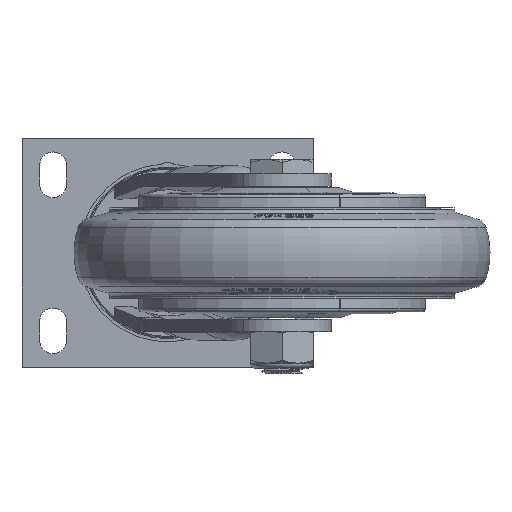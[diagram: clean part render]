
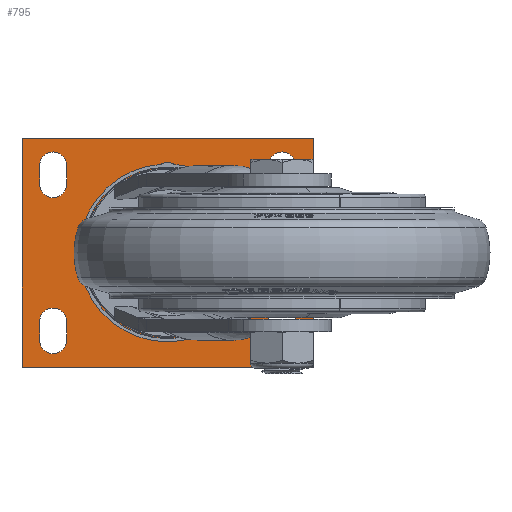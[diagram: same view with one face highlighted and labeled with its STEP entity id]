
A CAD part, front view. The second image highlights one B-rep face of the part: STEP entity #795.
In plain terms, the highlighted planar face has unit normal (0, -1, 0).
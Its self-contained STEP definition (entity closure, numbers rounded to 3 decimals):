
#161=CARTESIAN_POINT('',(0.,-8.,0.));
#162=DIRECTION('',(0.,-1.,0.));
#163=DIRECTION('',(1.,0.,0.));
#164=AXIS2_PLACEMENT_3D('',#161,#162,#163);
#166=CARTESIAN_POINT('',(0.,-8.,0.));
#167=DIRECTION('',(0.,-1.,0.));
#168=DIRECTION('',(-1.,0.,0.));
#169=AXIS2_PLACEMENT_3D('',#166,#167,#168);
#171=DIRECTION('',(0.,0.,-1.));
#172=VECTOR('',#171,110.);
#173=CARTESIAN_POINT('',(-70.,-8.,55.));
#174=LINE('',#173,#172);
#175=DIRECTION('',(-1.,0.,0.));
#176=VECTOR('',#175,140.);
#177=CARTESIAN_POINT('',(70.,-8.,55.));
#178=LINE('',#177,#176);
#179=DIRECTION('',(0.,0.,1.));
#180=VECTOR('',#179,110.);
#181=CARTESIAN_POINT('',(70.,-8.,-55.));
#182=LINE('',#181,#180);
#183=DIRECTION('',(1.,0.,0.));
#184=VECTOR('',#183,140.);
#185=CARTESIAN_POINT('',(-70.,-8.,-55.));
#186=LINE('',#185,#184);
#187=CARTESIAN_POINT('',(-55.,-8.,42.));
#188=DIRECTION('',(0.,1.,0.));
#189=DIRECTION('',(-1.,0.,0.));
#190=AXIS2_PLACEMENT_3D('',#187,#188,#189);
#192=DIRECTION('',(0.,0.,1.));
#193=VECTOR('',#192,9.);
#194=CARTESIAN_POINT('',(-61.5,-8.,33.));
#195=LINE('',#194,#193);
#196=CARTESIAN_POINT('',(-55.,-8.,33.));
#197=DIRECTION('',(0.,1.,0.));
#198=DIRECTION('',(1.,0.,0.));
#199=AXIS2_PLACEMENT_3D('',#196,#197,#198);
#201=DIRECTION('',(0.,0.,-1.));
#202=VECTOR('',#201,9.);
#203=CARTESIAN_POINT('',(-48.5,-8.,42.));
#204=LINE('',#203,#202);
#205=CARTESIAN_POINT('',(-55.,-8.,-42.));
#206=DIRECTION('',(0.,-1.,0.));
#207=DIRECTION('',(-1.,0.,0.));
#208=AXIS2_PLACEMENT_3D('',#205,#206,#207);
#210=DIRECTION('',(0.,0.,1.));
#211=VECTOR('',#210,9.);
#212=CARTESIAN_POINT('',(-48.5,-8.,-42.));
#213=LINE('',#212,#211);
#214=CARTESIAN_POINT('',(-55.,-8.,-33.));
#215=DIRECTION('',(0.,-1.,0.));
#216=DIRECTION('',(1.,0.,0.));
#217=AXIS2_PLACEMENT_3D('',#214,#215,#216);
#219=DIRECTION('',(0.,0.,-1.));
#220=VECTOR('',#219,9.);
#221=CARTESIAN_POINT('',(-61.5,-8.,-33.));
#222=LINE('',#221,#220);
#223=CARTESIAN_POINT('',(55.,-8.,42.));
#224=DIRECTION('',(0.,-1.,0.));
#225=DIRECTION('',(1.,0.,0.));
#226=AXIS2_PLACEMENT_3D('',#223,#224,#225);
#228=DIRECTION('',(0.,0.,-1.));
#229=VECTOR('',#228,9.);
#230=CARTESIAN_POINT('',(48.5,-8.,42.));
#231=LINE('',#230,#229);
#232=CARTESIAN_POINT('',(55.,-8.,33.));
#233=DIRECTION('',(0.,-1.,0.));
#234=DIRECTION('',(-1.,0.,0.));
#235=AXIS2_PLACEMENT_3D('',#232,#233,#234);
#237=DIRECTION('',(0.,0.,1.));
#238=VECTOR('',#237,9.);
#239=CARTESIAN_POINT('',(61.5,-8.,33.));
#240=LINE('',#239,#238);
#241=CARTESIAN_POINT('',(55.,-8.,-42.));
#242=DIRECTION('',(0.,1.,0.));
#243=DIRECTION('',(1.,0.,0.));
#244=AXIS2_PLACEMENT_3D('',#241,#242,#243);
#246=DIRECTION('',(0.,0.,-1.));
#247=VECTOR('',#246,9.);
#248=CARTESIAN_POINT('',(61.5,-8.,-33.));
#249=LINE('',#248,#247);
#250=CARTESIAN_POINT('',(55.,-8.,-33.));
#251=DIRECTION('',(0.,1.,0.));
#252=DIRECTION('',(-1.,0.,0.));
#253=AXIS2_PLACEMENT_3D('',#250,#251,#252);
#255=DIRECTION('',(0.,0.,1.));
#256=VECTOR('',#255,9.);
#257=CARTESIAN_POINT('',(48.5,-8.,-42.));
#258=LINE('',#257,#256);
#434=CARTESIAN_POINT('',(-36.742,-8.,0.));
#435=CARTESIAN_POINT('',(36.742,-8.,0.));
#436=VERTEX_POINT('',#434);
#437=VERTEX_POINT('',#435);
#446=CARTESIAN_POINT('',(-70.,-8.,55.));
#447=CARTESIAN_POINT('',(-70.,-8.,-55.));
#448=VERTEX_POINT('',#446);
#449=VERTEX_POINT('',#447);
#450=CARTESIAN_POINT('',(70.,-8.,-55.));
#451=VERTEX_POINT('',#450);
#452=CARTESIAN_POINT('',(70.,-8.,55.));
#453=VERTEX_POINT('',#452);
#462=CARTESIAN_POINT('',(-61.5,-8.,42.));
#463=CARTESIAN_POINT('',(-48.5,-8.,42.));
#464=VERTEX_POINT('',#462);
#465=VERTEX_POINT('',#463);
#466=CARTESIAN_POINT('',(-48.5,-8.,33.));
#467=VERTEX_POINT('',#466);
#468=CARTESIAN_POINT('',(-61.5,-8.,33.));
#469=VERTEX_POINT('',#468);
#471=CARTESIAN_POINT('',(-61.5,-8.,-42.));
#473=VERTEX_POINT('',#471);
#475=CARTESIAN_POINT('',(-48.5,-8.,-42.));
#477=VERTEX_POINT('',#475);
#479=CARTESIAN_POINT('',(-48.5,-8.,-33.));
#481=VERTEX_POINT('',#479);
#483=CARTESIAN_POINT('',(-61.5,-8.,-33.));
#485=VERTEX_POINT('',#483);
#487=CARTESIAN_POINT('',(61.5,-8.,42.));
#489=VERTEX_POINT('',#487);
#491=CARTESIAN_POINT('',(48.5,-8.,42.));
#493=VERTEX_POINT('',#491);
#495=CARTESIAN_POINT('',(48.5,-8.,33.));
#497=VERTEX_POINT('',#495);
#499=CARTESIAN_POINT('',(61.5,-8.,33.));
#501=VERTEX_POINT('',#499);
#503=CARTESIAN_POINT('',(61.5,-8.,-42.));
#505=VERTEX_POINT('',#503);
#507=CARTESIAN_POINT('',(48.5,-8.,-42.));
#509=VERTEX_POINT('',#507);
#511=CARTESIAN_POINT('',(48.5,-8.,-33.));
#513=VERTEX_POINT('',#511);
#515=CARTESIAN_POINT('',(61.5,-8.,-33.));
#517=VERTEX_POINT('',#515);
#734=CARTESIAN_POINT('',(0.,-8.,0.));
#735=DIRECTION('',(0.,-1.,0.));
#736=DIRECTION('',(-1.,0.,0.));
#737=AXIS2_PLACEMENT_3D('',#734,#735,#736);
#738=PLANE('',#737);
#740=ORIENTED_EDGE('',*,*,#739,.F.);
#742=ORIENTED_EDGE('',*,*,#741,.F.);
#744=ORIENTED_EDGE('',*,*,#743,.F.);
#746=ORIENTED_EDGE('',*,*,#745,.F.);
#747=EDGE_LOOP('',(#740,#742,#744,#746));
#748=FACE_OUTER_BOUND('',#747,.F.);
#750=ORIENTED_EDGE('',*,*,#749,.T.);
#752=ORIENTED_EDGE('',*,*,#751,.T.);
#753=EDGE_LOOP('',(#750,#752));
#754=FACE_BOUND('',#753,.F.);
#756=ORIENTED_EDGE('',*,*,#755,.F.);
#758=ORIENTED_EDGE('',*,*,#757,.F.);
#760=ORIENTED_EDGE('',*,*,#759,.F.);
#762=ORIENTED_EDGE('',*,*,#761,.F.);
#763=EDGE_LOOP('',(#756,#758,#760,#762));
#764=FACE_BOUND('',#763,.F.);
#766=ORIENTED_EDGE('',*,*,#765,.T.);
#768=ORIENTED_EDGE('',*,*,#767,.T.);
#770=ORIENTED_EDGE('',*,*,#769,.T.);
#772=ORIENTED_EDGE('',*,*,#771,.T.);
#773=EDGE_LOOP('',(#766,#768,#770,#772));
#774=FACE_BOUND('',#773,.F.);
#776=ORIENTED_EDGE('',*,*,#775,.T.);
#778=ORIENTED_EDGE('',*,*,#777,.T.);
#780=ORIENTED_EDGE('',*,*,#779,.T.);
#782=ORIENTED_EDGE('',*,*,#781,.T.);
#783=EDGE_LOOP('',(#776,#778,#780,#782));
#784=FACE_BOUND('',#783,.F.);
#786=ORIENTED_EDGE('',*,*,#785,.F.);
#788=ORIENTED_EDGE('',*,*,#787,.F.);
#790=ORIENTED_EDGE('',*,*,#789,.F.);
#792=ORIENTED_EDGE('',*,*,#791,.F.);
#793=EDGE_LOOP('',(#786,#788,#790,#792));
#794=FACE_BOUND('',#793,.F.);
#165=CIRCLE('',#164,36.742);
#170=CIRCLE('',#169,36.742);
#191=CIRCLE('',#190,6.5);
#200=CIRCLE('',#199,6.5);
#209=CIRCLE('',#208,6.5);
#218=CIRCLE('',#217,6.5);
#227=CIRCLE('',#226,6.5);
#236=CIRCLE('',#235,6.5);
#245=CIRCLE('',#244,6.5);
#254=CIRCLE('',#253,6.5);
#739=EDGE_CURVE('',#448,#449,#174,.T.);
#741=EDGE_CURVE('',#453,#448,#178,.T.);
#743=EDGE_CURVE('',#451,#453,#182,.T.);
#745=EDGE_CURVE('',#449,#451,#186,.T.);
#749=EDGE_CURVE('',#437,#436,#165,.T.);
#751=EDGE_CURVE('',#436,#437,#170,.T.);
#755=EDGE_CURVE('',#464,#465,#191,.T.);
#757=EDGE_CURVE('',#469,#464,#195,.T.);
#759=EDGE_CURVE('',#467,#469,#200,.T.);
#761=EDGE_CURVE('',#465,#467,#204,.T.);
#765=EDGE_CURVE('',#473,#477,#209,.T.);
#767=EDGE_CURVE('',#477,#481,#213,.T.);
#769=EDGE_CURVE('',#481,#485,#218,.T.);
#771=EDGE_CURVE('',#485,#473,#222,.T.);
#775=EDGE_CURVE('',#489,#493,#227,.T.);
#777=EDGE_CURVE('',#493,#497,#231,.T.);
#779=EDGE_CURVE('',#497,#501,#236,.T.);
#781=EDGE_CURVE('',#501,#489,#240,.T.);
#785=EDGE_CURVE('',#505,#509,#245,.T.);
#787=EDGE_CURVE('',#517,#505,#249,.T.);
#789=EDGE_CURVE('',#513,#517,#254,.T.);
#791=EDGE_CURVE('',#509,#513,#258,.T.);
#795=ADVANCED_FACE('',(#748,#754,#764,#774,#784,#794),#738,.T.);
